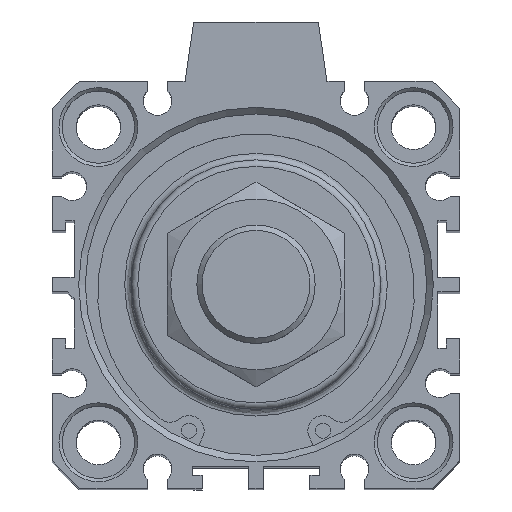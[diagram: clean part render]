
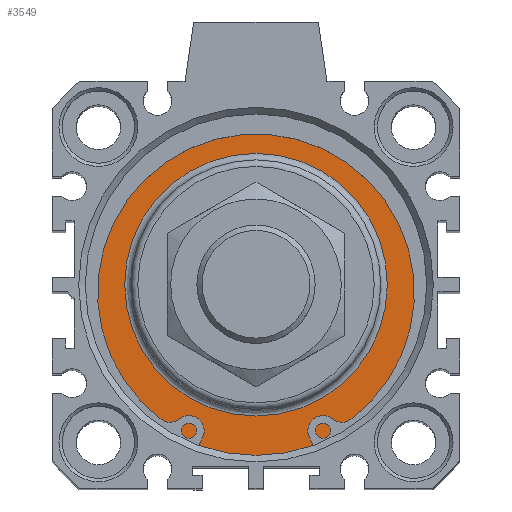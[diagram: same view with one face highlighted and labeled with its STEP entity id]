
A CAD part, top view. The second image highlights one B-rep face of the part: STEP entity #3549.
In plain terms, the highlighted planar face has unit normal (0, 0, 1).
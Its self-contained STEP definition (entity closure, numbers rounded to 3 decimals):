
#3498=CARTESIAN_POINT('',(-0.12,20.837,149.3));
#3499=VERTEX_POINT('',#3498);
#3500=CARTESIAN_POINT('',(-0.12,0.837,149.3));
#3501=DIRECTION('',(0.0,0.0,1.0));
#3502=DIRECTION('',(0.0,-1.0,0.0));
#3503=AXIS2_PLACEMENT_3D('',#3500,#3501,#3502);
#3504=CIRCLE('',#3503,20.);
#3505=EDGE_CURVE('',#3499,#3499,#3504,.T.);
#3530=CARTESIAN_POINT('',(-0.12,23.337,149.3));
#3531=DIRECTION('',(0.0,0.0,1.0));
#3532=DIRECTION('',(1.0,0.0,0.0));
#3533=AXIS2_PLACEMENT_3D('',#3530,#3531,#3532);
#3534=PLANE('',#3533);
#3535=CARTESIAN_POINT('',(-0.12,26.837,149.3));
#3536=VERTEX_POINT('',#3535);
#3537=CARTESIAN_POINT('',(-0.12,0.837,149.3));
#3538=DIRECTION('',(0.0,0.0,-1.0));
#3539=DIRECTION('',(0.0,1.0,0.0));
#3540=AXIS2_PLACEMENT_3D('',#3537,#3538,#3539);
#3541=CIRCLE('',#3540,26.);
#3542=EDGE_CURVE('',#3536,#3536,#3541,.T.);
#3543=ORIENTED_EDGE('',*,*,#3542,.F.);
#3544=EDGE_LOOP('',(#3543));
#3545=FACE_OUTER_BOUND('',#3544,.T.);
#3546=ORIENTED_EDGE('',*,*,#3505,.F.);
#3547=EDGE_LOOP('',(#3546));
#3548=FACE_BOUND('',#3547,.T.);
#3549=ADVANCED_FACE('',(#3545,#3548),#3534,.T.);
